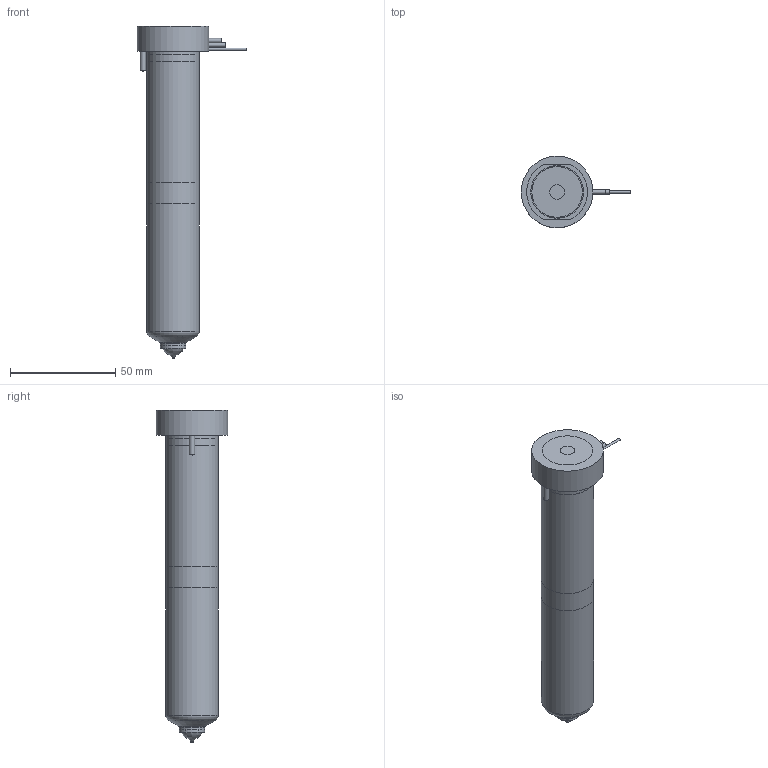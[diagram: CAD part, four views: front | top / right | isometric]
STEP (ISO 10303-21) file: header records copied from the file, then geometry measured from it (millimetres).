
FILE_DESCRIPTION(/* description */ (''),/* implementation_level */ '2;1');
FILE_NAME(/* name */ 'MXOT16145_250C_b',/* time_stamp */ '2007-01-18T09:48:54+13:00',/* author */ (''),/* organization */ (''),/* preprocessor_version */ 'ST-DEVELOPER v9',/* originating_system */ 'UGS - NX 4.0',/* authorisation */ '');
FILE_SCHEMA (('CONFIG_CONTROL_DESIGN'));
Length unit declared in the file: millimetre
Products named in the file (1): MXOT16145_250C_b
Bounding box: 51.95 x 34 x 157.68 mm (x, y, z)
Volume: 136974.7 mm3; surface area: 28562.6 mm2
Topology: 7 solids, 7 shells, 87 faces, 165 edges, 105 vertices
Faces by surface type: plane 36, cylinder 29, cone 11, torus 8, bspline 3
Full cylindrical faces by diameter (mm): 1 x4, 2 x2, 2.5 x2, 7 x1, 7.8 x1, 8 x1, 11.61 x1, 12.01 x2, 14.8 x1, 20.8 x1, 24.9 x2, 25 x2, 34 x1
Entity records: 2108 total; most frequent: CARTESIAN_POINT 453, DIRECTION 354, ORIENTED_EDGE 230, AXIS2_PLACEMENT_3D 164, EDGE_LOOP 140, EDGE_CURVE 115, VERTEX_POINT 96, ADVANCED_FACE 87
